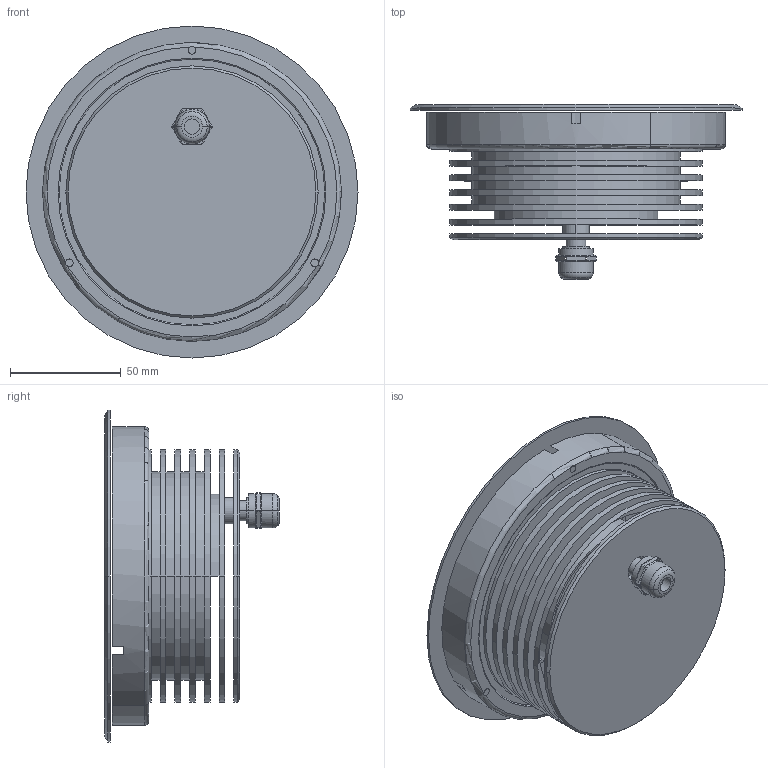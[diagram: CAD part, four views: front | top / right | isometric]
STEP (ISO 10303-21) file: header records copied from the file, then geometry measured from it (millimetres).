
FILE_DESCRIPTION((''),'2;1');
FILE_NAME('RAPPR_DI_DEFAULT_SW0001','2025-07-30T15:55:43',('Piccioli'),(''),'CREO PARAMETRIC BY PTC INC, 2025010','CREO PARAMETRIC BY PTC INC, 2025010','');
FILE_SCHEMA(('CONFIG_CONTROL_DESIGN'));
Length unit declared in the file: millimetre
Products named in the file (1): RAPPR_DI_DEFAULT_SW0001
Bounding box: 150 x 79 x 150 mm (x, y, z)
Surface area: 95825.6 mm2 (no closed solid volume)
Topology: 0 solids, 11 shells, 114 faces, 371 edges, 266 vertices
Faces by surface type: cylinder 57, plane 23, cone 14, bspline 12, torus 8
Entity records: 4694 total; most frequent: CARTESIAN_POINT 1329, DIRECTION 792, ORIENTED_EDGE 570, EDGE_CURVE 371, AXIS2_PLACEMENT_3D 339, VERTEX_POINT 266, CIRCLE 237, EDGE_LOOP 138
